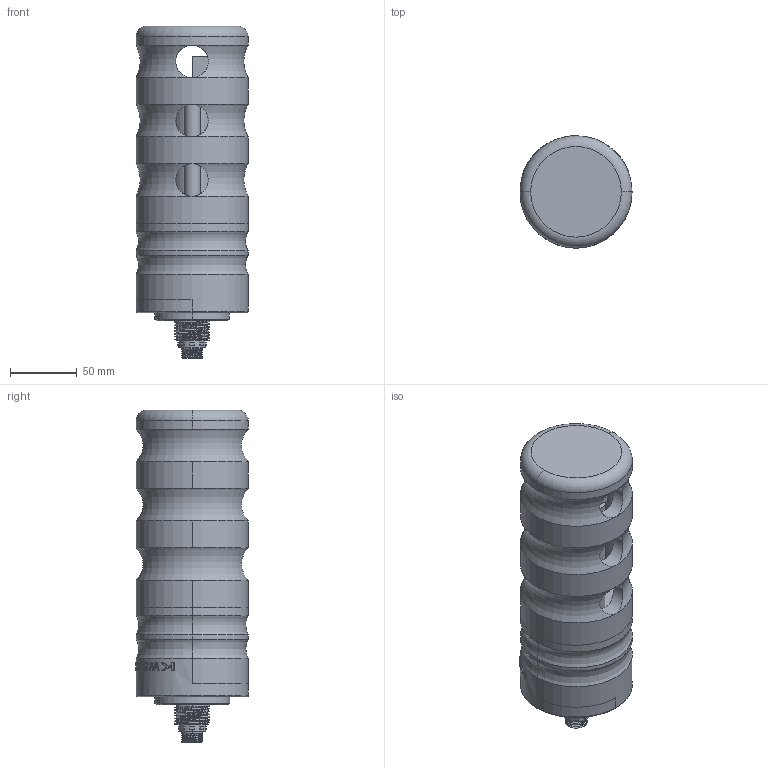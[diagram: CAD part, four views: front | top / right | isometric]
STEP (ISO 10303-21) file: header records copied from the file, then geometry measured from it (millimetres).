
FILE_DESCRIPTION((''),'2;1');
FILE_NAME('KWS-200000_ASM','2025-12-25T14:57:43',('28740194'),(''),'CREO PARAMETRIC BY PTC INC, 2024063','CREO PARAMETRIC BY PTC INC, 2024063','');
FILE_SCHEMA(('CONFIG_CONTROL_DESIGN'));
Length unit declared in the file: millimetre
Products named in the file (4): KWS-200-1; KWS-200-00; 20001; KWS-200000_ASM
Assembly tree (3 placements, depth 2):
  KWS-200000_ASM
    KWS-200-1
    KWS-200-00
    20001
Bounding box: 84 x 84.38 x 249 mm (x, y, z)
Volume: 855546 mm3; surface area: 137906 mm2
Topology: 3 solids, 3 shells, 561 faces, 1547 edges, 1021 vertices
Faces by surface type: bspline 355, cylinder 117, plane 73, torus 14, cone 2
Entity records: 31414 total; most frequent: CARTESIAN_POINT 19774, ORIENTED_EDGE 3094, EDGE_CURVE 1547, DIRECTION 1234, VERTEX_POINT 1021, B_SPLINE_CURVE_WITH_KNOTS 989, EDGE_LOOP 604, FACE_OUTER_BOUND 561
